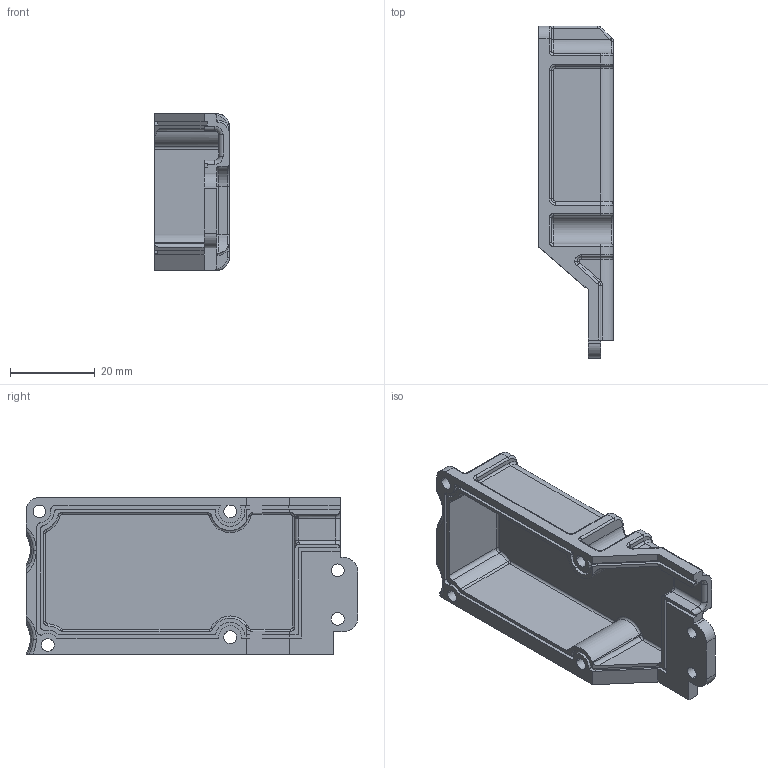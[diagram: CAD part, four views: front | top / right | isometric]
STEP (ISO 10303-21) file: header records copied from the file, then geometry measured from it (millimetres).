
FILE_DESCRIPTION (( 'STEP AP214' ), '1' );
FILE_NAME ('Êðûøêà áîêàñà äëÿ ïðèåìíèêà.STEP', '2019-03-23T07:04:31', ( '' ), ( '' ), 'SwSTEP 2.0', 'SolidWorks 2018', '' );
FILE_SCHEMA (( 'AUTOMOTIVE_DESIGN' ));
Length unit declared in the file: millimetre
Products named in the file (1): Êðûøêà áîêàñà äëÿ ïðèåìíèêà
Bounding box: 17.69 x 78.38 x 37 mm (x, y, z)
Volume: 10576 mm3; surface area: 11944.8 mm2
Topology: 1 solids, 1 shells, 495 faces, 1288 edges, 803 vertices
Faces by surface type: plane 180, cylinder 155, torus 85, bspline 73, cone 2
Entity records: 17848 total; most frequent: CARTESIAN_POINT 5980, ORIENTED_EDGE 2564, DIRECTION 2370, EDGE_CURVE 1282, AXIS2_PLACEMENT_3D 843, VERTEX_POINT 803, LINE 684, VECTOR 684
